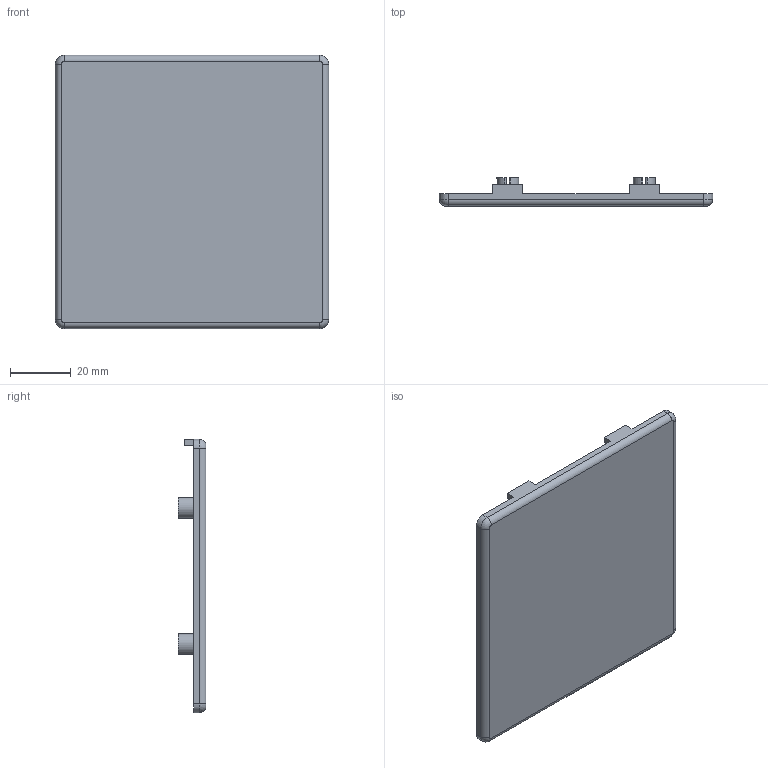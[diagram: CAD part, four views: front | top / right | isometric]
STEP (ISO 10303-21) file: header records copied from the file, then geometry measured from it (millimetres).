
FILE_DESCRIPTION (( 'STEP AP214' ), '1' );
FILE_NAME ('4017.STEP', '2017-08-10T06:20:50', ( '' ), ( '' ), 'SwSTEP 2.0', 'SolidWorks 2014', '' );
FILE_SCHEMA (( 'AUTOMOTIVE_DESIGN' ));
Length unit declared in the file: millimetre
Products named in the file (2): 4017
Bounding box: 90 x 9.2 x 90 mm (x, y, z)
Volume: 17904.9 mm3; surface area: 19199.6 mm2
Topology: 1 solids, 1 shells, 114 faces, 304 edges, 200 vertices
Faces by surface type: cylinder 68, plane 42, torus 4
Entity records: 3653 total; most frequent: DIRECTION 676, CARTESIAN_POINT 620, ORIENTED_EDGE 608, EDGE_CURVE 304, AXIS2_PLACEMENT_3D 256, VERTEX_POINT 200, LINE 164, VECTOR 164
